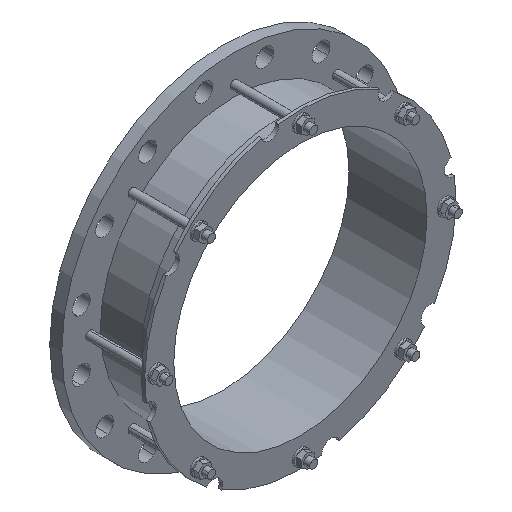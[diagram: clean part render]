
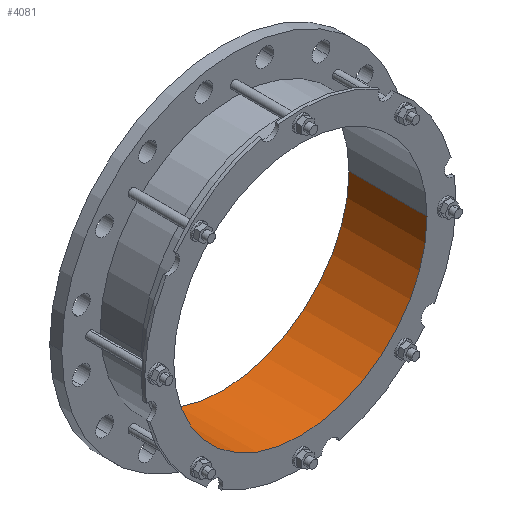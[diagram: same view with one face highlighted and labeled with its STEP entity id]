
A CAD part, isometric view. The second image highlights one B-rep face of the part: STEP entity #4081.
In plain terms, the highlighted cylindrical face has radius 190.75 mm (diameter 381.5 mm), a partial arc.
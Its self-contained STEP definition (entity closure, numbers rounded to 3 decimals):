
#7=CARTESIAN_POINT('',(0.,18.,0.));
#8=DIRECTION('',(0.,1.,0.));
#9=DIRECTION('',(1.,0.,0.));
#10=AXIS2_PLACEMENT_3D('',#7,#8,#9);
#930=CARTESIAN_POINT('',(0.,-99.452,0.));
#931=DIRECTION('',(0.,1.,0.));
#932=DIRECTION('',(1.,0.,0.));
#933=AXIS2_PLACEMENT_3D('',#930,#931,#932);
#935=DIRECTION('',(0.,1.,0.));
#936=VECTOR('',#935,117.452);
#937=CARTESIAN_POINT('',(190.75,-99.452,0.));
#938=LINE('',#937,#936);
#939=DIRECTION('',(0.,1.,0.));
#940=VECTOR('',#939,117.452);
#941=CARTESIAN_POINT('',(-190.75,-99.452,0.));
#942=LINE('',#941,#940);
#2822=CARTESIAN_POINT('',(190.75,-99.452,0.));
#2823=CARTESIAN_POINT('',(190.75,18.,0.));
#2824=VERTEX_POINT('',#2822);
#2825=VERTEX_POINT('',#2823);
#2830=CARTESIAN_POINT('',(-190.75,-99.452,0.));
#2831=CARTESIAN_POINT('',(-190.75,18.,0.));
#2832=VERTEX_POINT('',#2830);
#2833=VERTEX_POINT('',#2831);
#4068=CARTESIAN_POINT('',(0.,-105.325,0.));
#4069=DIRECTION('',(0.,1.,0.));
#4070=DIRECTION('',(-1.,0.,0.));
#4071=AXIS2_PLACEMENT_3D('',#4068,#4069,#4070);
#4072=CYLINDRICAL_SURFACE('',#4071,190.75);
#4074=ORIENTED_EDGE('',*,*,#4073,.F.);
#4075=ORIENTED_EDGE('',*,*,#4061,.T.);
#4077=ORIENTED_EDGE('',*,*,#4076,.T.);
#4078=ORIENTED_EDGE('',*,*,#3463,.F.);
#4079=EDGE_LOOP('',(#4074,#4075,#4077,#4078));
#4080=FACE_OUTER_BOUND('',#4079,.F.);
#4081=ADVANCED_FACE('',(#4080),#4072,.F.);
#11=CIRCLE('',#10,190.75);
#934=CIRCLE('',#933,190.75);
#3463=EDGE_CURVE('',#2825,#2833,#11,.T.);
#4061=EDGE_CURVE('',#2824,#2832,#934,.T.);
#4073=EDGE_CURVE('',#2824,#2825,#938,.T.);
#4076=EDGE_CURVE('',#2832,#2833,#942,.T.);
